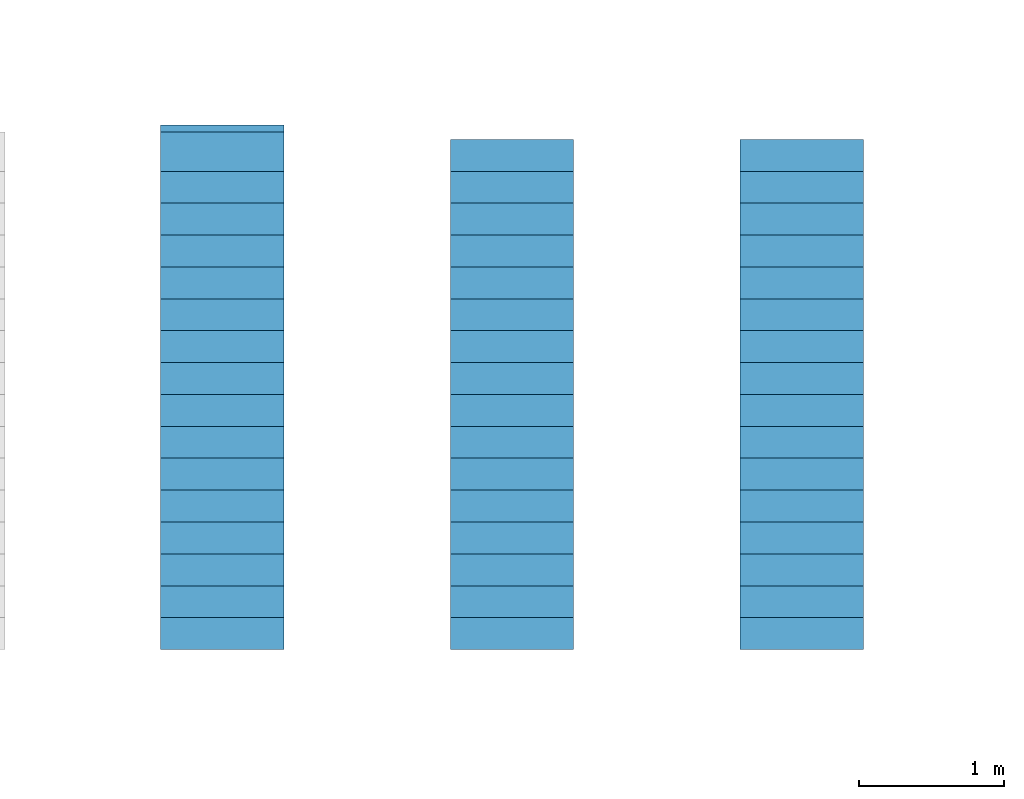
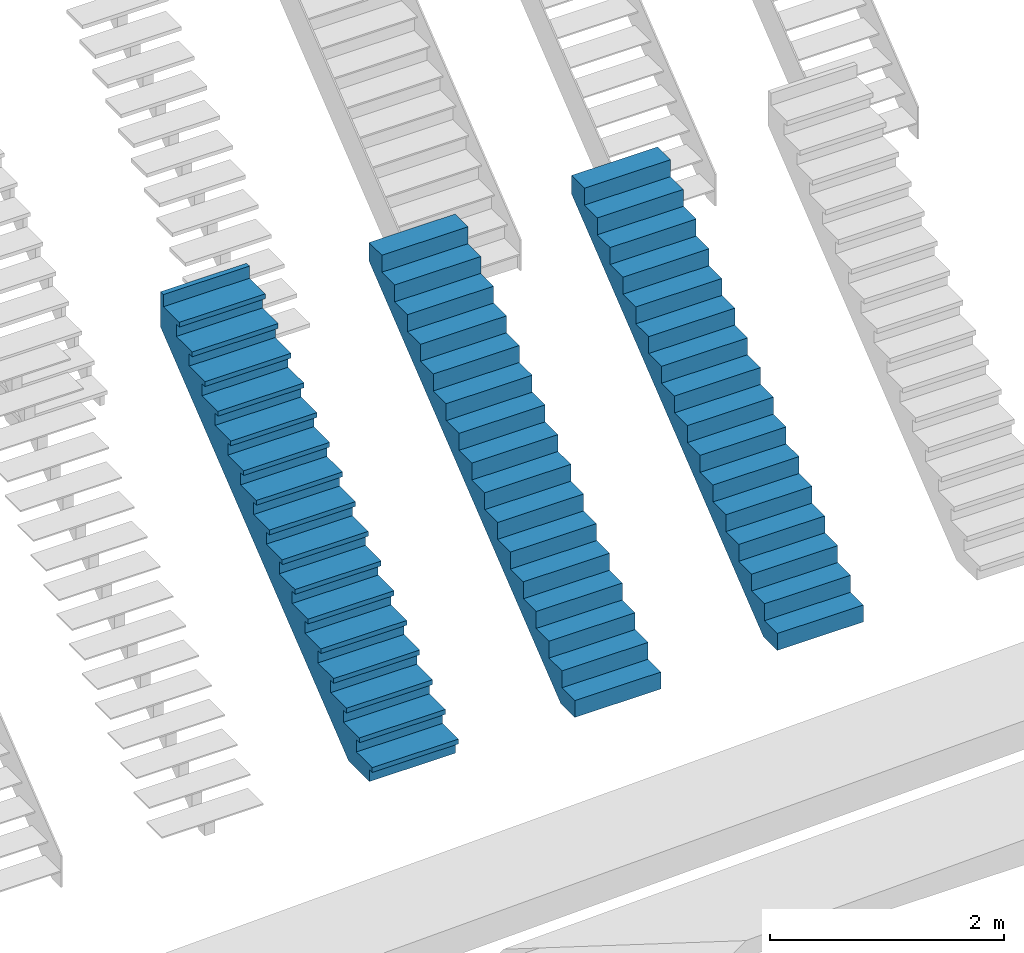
# One storey, part 8 of 14: 3 stair flights, 3 elements without a shape of their own.
"""IFC2X3 building model written with IfcOpenShell, lengths in millimetres."""

from ifc_helpers import new_model, entity, si_unit, converted_unit, derived_unit, direction, frame, origin, place, context, subcontext, project, spatial, faceted_brep, material, element, aggregate, save


model = new_model("IFC2X3")

# Units and contexts
model_context = context("Model", 3, precision=0.01, world=origin(), true_north=direction((6.12303176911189e-17, 1.0)))
context_of_model = context(None, 3, precision=0.01, world=origin(), true_north=direction((6.12303176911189e-17, 1.0)))
body_context = subcontext(model_context, "Body", "Model", "MODEL_VIEW")
ifc_project = project(units=[si_unit("LENGTHUNIT", "METRE", prefix="MILLI"), si_unit("AREAUNIT", "SQUARE_METRE"), si_unit("VOLUMEUNIT", "CUBIC_METRE"), converted_unit("PLANEANGLEUNIT", "DEGREE", entity("IfcRatioMeasure", 0.0174532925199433), si_unit("PLANEANGLEUNIT", "RADIAN"), dimensions=[0, 0, 0, 0, 0, 0, 0]), si_unit("MASSUNIT", "GRAM", prefix="KILO"), si_unit("TIMEUNIT", "SECOND"), si_unit("FREQUENCYUNIT", "HERTZ"), si_unit("THERMODYNAMICTEMPERATUREUNIT", "KELVIN"), derived_unit("THERMALTRANSMITTANCEUNIT", [(si_unit("MASSUNIT", "GRAM", prefix="KILO"), 1), (si_unit("THERMODYNAMICTEMPERATUREUNIT", "KELVIN"), -1), (si_unit("TIMEUNIT", "SECOND"), -3)]), derived_unit("VOLUMETRICFLOWRATEUNIT", [(si_unit("LENGTHUNIT", "METRE"), 3), (si_unit("TIMEUNIT", "SECOND"), -1)]), si_unit("ELECTRICCURRENTUNIT", "AMPERE"), si_unit("ELECTRICVOLTAGEUNIT", "VOLT"), si_unit("POWERUNIT", "WATT")], contexts=[model_context, context_of_model])

# Site, building, storey
site_placement = place(None, origin())
site = spatial("IfcSite", under=ifc_project, at=site_placement, Name="Surface", CompositionType="ELEMENT")
building_placement = place(site_placement, origin())
building = spatial("IfcBuilding", under=site, at=building_placement, CompositionType="ELEMENT")
storey_placement = place(building_placement, origin())
storey = spatial("IfcBuildingStorey", under=building, at=storey_placement, Name="00_begane grond", CompositionType="ELEMENT", Elevation=0.0)

# Stair, stair flight
stair_1_placement = place(storey_placement, origin())
stair_1 = element("IfcStair", 1, at=stair_1_placement, inside=storey, Name="Cast-In-Place Stair:Stair", ShapeType="NOTDEFINED")
ifc_material = material(Name="24_beton_prefab_generiek")
stair_flight_1_placement = place(stair_1_placement, frame((21349.8089026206, -31324.6322235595, 0.0)))
stair_flight_1 = element("IfcStairFlight", 2, at=stair_flight_1_placement, material=ifc_material, Name="Cast-In-Place Stair:Stair:69314 Run 1", ObjectType="Cast-In-Place Stair:24_ST_trap_beton_ihwg_850_220_185", NumberOfRiser=17, NumberOfTreads=16, RiserHeight=0.578971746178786, TreadLength=0.721784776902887, context=body_context, shape_type="Brep", body=[
    faceted_brep([(0.0, 270.0, 176.470588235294), (0.0, 0.0, 176.470588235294), (850.0, 0.0, 176.470588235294), (850.0, 270.0, 176.470588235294), (850.0, 0.0, 126.470588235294), (0.0, 0.0, 126.470588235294), (0.0, 50.0, 126.470588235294), (850.0, 50.0, 126.470588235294), (850.0, 50.0, 0.0), (850.0, 100.0, 0.0), (850.0, 100.0, 126.470588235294), (850.0, 320.0, 126.470588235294), (850.0, 320.0, 302.941176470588), (850.0, 540.0, 302.941176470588), (850.0, 540.0, 479.411764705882), (850.0, 760.0, 479.411764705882), (850.0, 760.0, 655.882352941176), (850.0, 980.0, 655.882352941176), (850.0, 980.0, 832.35294117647), (850.0, 1200.0, 832.35294117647), (850.0, 1200.0, 1008.82352941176), (850.0, 1420.0, 1008.82352941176), (850.0, 1420.0, 1185.29411764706), (850.0, 1640.0, 1185.29411764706), (850.0, 1640.0, 1361.76470588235), (850.0, 1860.0, 1361.76470588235), (850.0, 1860.0, 1538.23529411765), (850.0, 2080.0, 1538.23529411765), (850.0, 2080.0, 1714.70588235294), (850.0, 2300.0, 1714.70588235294), (850.0, 2300.0, 1891.17647058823), (850.0, 2520.0, 1891.17647058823), (850.0, 2520.0, 2067.64705882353), (850.0, 2740.0, 2067.64705882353), (850.0, 2740.0, 2244.11764705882), (850.0, 2960.0, 2244.11764705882), (850.0, 2960.0, 2420.58823529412), (850.0, 3180.0, 2420.58823529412), (850.0, 3180.0, 2597.05882352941), (850.0, 3400.0, 2597.05882352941), (850.0, 3400.0, 2773.5294117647), (850.0, 3620.0, 2773.5294117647), (850.0, 3620.0, 2950.0), (850.0, 3570.0, 2950.0), (850.0, 3570.0, 2823.5294117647), (850.0, 3300.0, 2823.5294117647), (850.0, 3300.0, 2773.5294117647), (850.0, 3350.0, 2773.5294117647), (850.0, 3350.0, 2647.05882352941), (850.0, 3080.0, 2647.05882352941), (850.0, 3080.0, 2597.05882352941), (850.0, 3130.0, 2597.05882352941), (850.0, 3130.0, 2470.58823529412), (850.0, 2860.0, 2470.58823529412), (850.0, 2860.0, 2420.58823529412), (850.0, 2910.0, 2420.58823529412), (850.0, 2910.0, 2294.11764705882), (850.0, 2640.0, 2294.11764705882), (850.0, 2640.0, 2244.11764705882), (850.0, 2690.0, 2244.11764705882), (850.0, 2690.0, 2117.64705882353), (850.0, 2420.0, 2117.64705882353), (850.0, 2420.0, 2067.64705882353), (850.0, 2470.0, 2067.64705882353), (850.0, 2470.0, 1941.17647058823), (850.0, 2200.0, 1941.17647058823), (850.0, 2200.0, 1891.17647058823), (850.0, 2250.0, 1891.17647058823), (850.0, 2250.0, 1764.70588235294), (850.0, 1980.0, 1764.70588235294), (850.0, 1980.0, 1714.70588235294), (850.0, 2030.0, 1714.70588235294), (850.0, 2030.0, 1588.23529411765), (850.0, 1760.0, 1588.23529411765), (850.0, 1760.0, 1538.23529411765), (850.0, 1810.0, 1538.23529411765), (850.0, 1810.0, 1411.76470588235), (850.0, 1540.0, 1411.76470588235), (850.0, 1540.0, 1361.76470588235), (850.0, 1590.0, 1361.76470588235), (850.0, 1590.0, 1235.29411764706), (850.0, 1320.0, 1235.29411764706), (850.0, 1320.0, 1185.29411764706), (850.0, 1370.0, 1185.29411764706), (850.0, 1370.0, 1058.82352941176), (850.0, 1100.0, 1058.82352941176), (850.0, 1100.0, 1008.82352941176), (850.0, 1150.0, 1008.82352941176), (850.0, 1150.0, 882.35294117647), (850.0, 880.0, 882.35294117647), (850.0, 880.0, 832.35294117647), (850.0, 930.0, 832.35294117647), (850.0, 930.0, 705.882352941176), (850.0, 660.0, 705.882352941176), (850.0, 660.0, 655.882352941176), (850.0, 710.0, 655.882352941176), (850.0, 710.0, 529.411764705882), (850.0, 440.0, 529.411764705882), (850.0, 440.0, 479.411764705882), (850.0, 490.0, 479.411764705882), (850.0, 490.0, 352.941176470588), (850.0, 220.0, 352.941176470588), (850.0, 220.0, 302.941176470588), (850.0, 270.0, 302.941176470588), (0.0, 50.0, 0.0), (0.0, 270.0, 302.941176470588), (0.0, 220.0, 302.941176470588), (0.0, 220.0, 352.941176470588), (0.0, 490.0, 352.941176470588), (0.0, 490.0, 479.411764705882), (0.0, 440.0, 479.411764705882), (0.0, 440.0, 529.411764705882), (0.0, 710.0, 529.411764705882), (0.0, 710.0, 655.882352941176), (0.0, 660.0, 655.882352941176), (0.0, 660.0, 705.882352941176), (0.0, 930.0, 705.882352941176), (0.0, 930.0, 832.35294117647), (0.0, 880.0, 832.35294117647), (0.0, 880.0, 882.35294117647), (0.0, 1150.0, 882.35294117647), (0.0, 1150.0, 1008.82352941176), (0.0, 1100.0, 1008.82352941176), (0.0, 1100.0, 1058.82352941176), (0.0, 1370.0, 1058.82352941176), (0.0, 1370.0, 1185.29411764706), (0.0, 1320.0, 1185.29411764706), (0.0, 1320.0, 1235.29411764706), (0.0, 1590.0, 1235.29411764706), (0.0, 1590.0, 1361.76470588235), (0.0, 1540.0, 1361.76470588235), (0.0, 1540.0, 1411.76470588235), (0.0, 1810.0, 1411.76470588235), (0.0, 1810.0, 1538.23529411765), (0.0, 1760.0, 1538.23529411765), (0.0, 1760.0, 1588.23529411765), (0.0, 2030.0, 1588.23529411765), (0.0, 2030.0, 1714.70588235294), (0.0, 1980.0, 1714.70588235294), (0.0, 1980.0, 1764.70588235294), (0.0, 2250.0, 1764.70588235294), (0.0, 2250.0, 1891.17647058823), (0.0, 2200.0, 1891.17647058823), (0.0, 2200.0, 1941.17647058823), (0.0, 2470.0, 1941.17647058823), (0.0, 2470.0, 2067.64705882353), (0.0, 2420.0, 2067.64705882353), (0.0, 2420.0, 2117.64705882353), (0.0, 2690.0, 2117.64705882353), (0.0, 2690.0, 2244.11764705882), (0.0, 2640.0, 2244.11764705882), (0.0, 2640.0, 2294.11764705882), (0.0, 2910.0, 2294.11764705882), (0.0, 2910.0, 2420.58823529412), (0.0, 2860.0, 2420.58823529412), (0.0, 2860.0, 2470.58823529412), (0.0, 3130.0, 2470.58823529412), (0.0, 3130.0, 2597.05882352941), (0.0, 3080.0, 2597.05882352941), (0.0, 3080.0, 2647.05882352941), (0.0, 3350.0, 2647.05882352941), (0.0, 3350.0, 2773.5294117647), (0.0, 3300.0, 2773.5294117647), (0.0, 3300.0, 2823.5294117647), (0.0, 3570.0, 2823.5294117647), (0.0, 3570.0, 2950.0), (0.0, 3620.0, 2950.0), (0.0, 3620.0, 2773.5294117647), (0.0, 3400.0, 2773.5294117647), (0.0, 3400.0, 2597.05882352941), (0.0, 3180.0, 2597.05882352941), (0.0, 3180.0, 2420.58823529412), (0.0, 2960.0, 2420.58823529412), (0.0, 2960.0, 2244.11764705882), (0.0, 2740.0, 2244.11764705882), (0.0, 2740.0, 2067.64705882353), (0.0, 2520.0, 2067.64705882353), (0.0, 2520.0, 1891.17647058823), (0.0, 2300.0, 1891.17647058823), (0.0, 2300.0, 1714.70588235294), (0.0, 2080.0, 1714.70588235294), (0.0, 2080.0, 1538.23529411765), (0.0, 1860.0, 1538.23529411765), (0.0, 1860.0, 1361.76470588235), (0.0, 1640.0, 1361.76470588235), (0.0, 1640.0, 1185.29411764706), (0.0, 1420.0, 1185.29411764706), (0.0, 1420.0, 1008.82352941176), (0.0, 1200.0, 1008.82352941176), (0.0, 1200.0, 832.35294117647), (0.0, 980.0, 832.35294117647), (0.0, 980.0, 655.882352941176), (0.0, 760.0, 655.882352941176), (0.0, 760.0, 479.411764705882), (0.0, 540.0, 479.411764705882), (0.0, 540.0, 302.941176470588), (0.0, 320.0, 302.941176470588), (0.0, 320.0, 126.470588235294), (0.0, 100.0, 126.470588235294), (0.0, 100.0, 0.0)], [[[0, 1, 2, 3]], [[4, 5, 6, 7]], [[2, 1, 5, 4]], [[7, 8, 9, 10, 11, 12, 13, 14, 15, 16, 17, 18, 19, 20, 21, 22, 23, 24, 25, 26, 27, 28, 29, 30, 31, 32, 33, 34, 35, 36, 37, 38, 39, 40, 41, 42, 43, 44, 45, 46, 47, 48, 49, 50, 51, 52, 53, 54, 55, 56, 57, 58, 59, 60, 61, 62, 63, 64, 65, 66, 67, 68, 69, 70, 71, 72, 73, 74, 75, 76, 77, 78, 79, 80, 81, 82, 83, 84, 85, 86, 87, 88, 89, 90, 91, 92, 93, 94, 95, 96, 97, 98, 99, 100, 101, 102, 103, 3, 2, 4]], [[104, 6, 5, 1, 0, 105, 106, 107, 108, 109, 110, 111, 112, 113, 114, 115, 116, 117, 118, 119, 120, 121, 122, 123, 124, 125, 126, 127, 128, 129, 130, 131, 132, 133, 134, 135, 136, 137, 138, 139, 140, 141, 142, 143, 144, 145, 146, 147, 148, 149, 150, 151, 152, 153, 154, 155, 156, 157, 158, 159, 160, 161, 162, 163, 164, 165, 166, 167, 168, 169, 170, 171, 172, 173, 174, 175, 176, 177, 178, 179, 180, 181, 182, 183, 184, 185, 186, 187, 188, 189, 190, 191, 192, 193, 194, 195, 196, 197, 198, 199]], [[8, 7, 6, 104]], [[9, 8, 104, 199]], [[10, 9, 199, 198]], [[108, 107, 101, 100]], [[102, 106, 105, 103]], [[101, 107, 106, 102]], [[105, 0, 3, 103]], [[12, 11, 197, 196]], [[112, 111, 97, 96]], [[98, 110, 109, 99]], [[97, 111, 110, 98]], [[109, 108, 100, 99]], [[14, 13, 195, 194]], [[116, 115, 93, 92]], [[94, 114, 113, 95]], [[93, 115, 114, 94]], [[113, 112, 96, 95]], [[16, 15, 193, 192]], [[120, 119, 89, 88]], [[90, 118, 117, 91]], [[89, 119, 118, 90]], [[117, 116, 92, 91]], [[18, 17, 191, 190]], [[124, 123, 85, 84]], [[86, 122, 121, 87]], [[85, 123, 122, 86]], [[121, 120, 88, 87]], [[20, 19, 189, 188]], [[128, 127, 81, 80]], [[82, 126, 125, 83]], [[81, 127, 126, 82]], [[125, 124, 84, 83]], [[22, 21, 187, 186]], [[132, 131, 77, 76]], [[78, 130, 129, 79]], [[77, 131, 130, 78]], [[129, 128, 80, 79]], [[24, 23, 185, 184]], [[136, 135, 73, 72]], [[74, 134, 133, 75]], [[73, 135, 134, 74]], [[133, 132, 76, 75]], [[26, 25, 183, 182]], [[140, 139, 69, 68]], [[70, 138, 137, 71]], [[69, 139, 138, 70]], [[137, 136, 72, 71]], [[28, 27, 181, 180]], [[144, 143, 65, 64]], [[66, 142, 141, 67]], [[65, 143, 142, 66]], [[141, 140, 68, 67]], [[30, 29, 179, 178]], [[148, 147, 61, 60]], [[62, 146, 145, 63]], [[61, 147, 146, 62]], [[145, 144, 64, 63]], [[32, 31, 177, 176]], [[152, 151, 57, 56]], [[58, 150, 149, 59]], [[57, 151, 150, 58]], [[149, 148, 60, 59]], [[34, 33, 175, 174]], [[156, 155, 53, 52]], [[54, 154, 153, 55]], [[53, 155, 154, 54]], [[153, 152, 56, 55]], [[36, 35, 173, 172]], [[160, 159, 49, 48]], [[50, 158, 157, 51]], [[49, 159, 158, 50]], [[157, 156, 52, 51]], [[38, 37, 171, 170]], [[164, 163, 45, 44]], [[45, 163, 162, 46]], [[161, 160, 48, 47]], [[40, 39, 169, 168]], [[43, 165, 164, 44]], [[41, 40, 168, 167]], [[42, 41, 167, 166]], [[43, 42, 166, 165]], [[46, 162, 161, 47]], [[38, 170, 169, 39]], [[36, 172, 171, 37]], [[34, 174, 173, 35]], [[32, 176, 175, 33]], [[30, 178, 177, 31]], [[28, 180, 179, 29]], [[26, 182, 181, 27]], [[24, 184, 183, 25]], [[22, 186, 185, 23]], [[20, 188, 187, 21]], [[18, 190, 189, 19]], [[16, 192, 191, 17]], [[14, 194, 193, 15]], [[12, 196, 195, 13]], [[10, 198, 197, 11]]]),
    faceted_brep([(0.0, 320.0, 126.470588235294), (0.0, 100.0, 126.470588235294), (850.0, 100.0, 126.470588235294), (850.0, 320.0, 126.470588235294), (0.0, 320.0, 0.0), (0.0, 100.0, 0.0), (850.0, 100.0, 0.0), (850.0, 320.0, 0.0), (0.0, 540.0, 302.941176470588), (0.0, 320.0, 302.941176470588), (850.0, 320.0, 302.941176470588), (850.0, 540.0, 302.941176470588), (0.0, 540.0, 110.646849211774), (0.0, 402.060261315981, 0.0), (850.0, 402.060261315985, 0.0), (850.0, 540.0, 110.64684921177), (0.0, 760.0, 479.411764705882), (0.0, 540.0, 479.411764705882), (850.0, 540.0, 479.411764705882), (850.0, 760.0, 479.411764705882), (0.0, 760.0, 287.117437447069), (850.0, 760.0, 287.117437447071), (0.0, 980.0, 655.882352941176), (0.0, 760.0, 655.882352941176), (850.0, 760.0, 655.882352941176), (850.0, 980.0, 655.882352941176), (0.0, 980.0, 463.58802568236), (850.0, 980.0, 463.588025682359), (0.0, 1200.0, 832.35294117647), (0.0, 980.0, 832.35294117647), (850.0, 980.0, 832.35294117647), (850.0, 1200.0, 832.35294117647), (0.0, 1200.0, 640.058613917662), (850.0, 1200.0, 640.058613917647), (0.0, 1420.0, 1008.82352941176), (0.0, 1200.0, 1008.82352941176), (850.0, 1200.0, 1008.82352941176), (850.0, 1420.0, 1008.82352941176), (0.0, 1420.0, 816.529202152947), (850.0, 1420.0, 816.529202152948), (0.0, 1640.0, 1185.29411764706), (0.0, 1420.0, 1185.29411764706), (850.0, 1420.0, 1185.29411764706), (850.0, 1640.0, 1185.29411764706), (0.0, 1640.0, 992.999790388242), (850.0, 1640.0, 992.99979038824), (0.0, 1860.0, 1361.76470588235), (0.0, 1640.0, 1361.76470588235), (850.0, 1640.0, 1361.76470588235), (850.0, 1860.0, 1361.76470588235), (0.0, 1860.0, 1169.47037862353), (850.0, 1860.0, 1169.47037862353), (0.0, 2080.0, 1538.23529411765), (0.0, 1860.0, 1538.23529411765), (850.0, 1860.0, 1538.23529411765), (850.0, 2080.0, 1538.23529411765), (0.0, 2080.0, 1345.94096685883), (850.0, 2080.0, 1345.94096685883), (0.0, 2300.0, 1714.70588235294), (0.0, 2080.0, 1714.70588235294), (850.0, 2080.0, 1714.70588235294), (850.0, 2300.0, 1714.70588235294), (0.0, 2300.0, 1522.41155509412), (850.0, 2300.0, 1522.41155509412), (0.0, 2520.0, 1891.17647058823), (0.0, 2300.0, 1891.17647058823), (850.0, 2300.0, 1891.17647058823), (850.0, 2520.0, 1891.17647058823), (0.0, 2520.0, 1698.88214332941), (850.0, 2520.0, 1698.88214332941), (0.0, 2740.0, 2067.64705882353), (0.0, 2520.0, 2067.64705882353), (850.0, 2520.0, 2067.64705882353), (850.0, 2740.0, 2067.64705882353), (0.0, 2740.0, 1875.35273156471), (850.0, 2740.0, 1875.35273156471), (0.0, 2960.0, 2244.11764705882), (0.0, 2740.0, 2244.11764705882), (850.0, 2740.0, 2244.11764705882), (850.0, 2960.0, 2244.11764705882), (0.0, 2960.0, 2051.8233198), (850.0, 2960.0, 2051.8233198), (0.0, 3180.0, 2420.58823529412), (0.0, 2960.0, 2420.58823529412), (850.0, 2960.0, 2420.58823529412), (850.0, 3180.0, 2420.58823529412), (0.0, 3180.0, 2228.2939080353), (850.0, 3180.0, 2228.2939080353), (0.0, 3400.0, 2597.05882352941), (0.0, 3180.0, 2597.05882352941), (850.0, 3180.0, 2597.05882352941), (850.0, 3400.0, 2597.05882352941), (0.0, 3400.0, 2404.76449627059), (850.0, 3400.0, 2404.76449627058), (0.0, 3620.0, 2773.5294117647), (0.0, 3400.0, 2773.5294117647), (850.0, 3400.0, 2773.5294117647), (850.0, 3620.0, 2773.5294117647), (0.0, 3620.0, 2581.23508450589), (850.0, 3620.0, 2581.23508450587)], [[[0, 1, 2, 3]], [[1, 0, 4, 5]], [[2, 1, 5, 6]], [[3, 2, 6, 7]], [[8, 9, 10, 11]], [[4, 0, 9, 8, 12, 13]], [[0, 3, 10, 9]], [[3, 7, 14, 15, 11, 10]], [[16, 17, 18, 19]], [[17, 16, 20, 12, 8]], [[8, 11, 18, 17]], [[19, 18, 11, 15, 21]], [[22, 23, 24, 25]], [[23, 22, 26, 20, 16]], [[16, 19, 24, 23]], [[25, 24, 19, 21, 27]], [[28, 29, 30, 31]], [[29, 28, 32, 26, 22]], [[22, 25, 30, 29]], [[31, 30, 25, 27, 33]], [[34, 35, 36, 37]], [[35, 34, 38, 32, 28]], [[28, 31, 36, 35]], [[37, 36, 31, 33, 39]], [[40, 41, 42, 43]], [[41, 40, 44, 38, 34]], [[34, 37, 42, 41]], [[43, 42, 37, 39, 45]], [[46, 47, 48, 49]], [[47, 46, 50, 44, 40]], [[40, 43, 48, 47]], [[49, 48, 43, 45, 51]], [[52, 53, 54, 55]], [[53, 52, 56, 50, 46]], [[46, 49, 54, 53]], [[55, 54, 49, 51, 57]], [[58, 59, 60, 61]], [[59, 58, 62, 56, 52]], [[52, 55, 60, 59]], [[61, 60, 55, 57, 63]], [[64, 65, 66, 67]], [[65, 64, 68, 62, 58]], [[58, 61, 66, 65]], [[67, 66, 61, 63, 69]], [[70, 71, 72, 73]], [[71, 70, 74, 68, 64]], [[64, 67, 72, 71]], [[73, 72, 67, 69, 75]], [[76, 77, 78, 79]], [[77, 76, 80, 74, 70]], [[70, 73, 78, 77]], [[79, 78, 73, 75, 81]], [[82, 83, 84, 85]], [[83, 82, 86, 80, 76]], [[76, 79, 84, 83]], [[85, 84, 79, 81, 87]], [[88, 89, 90, 91]], [[89, 88, 92, 86, 82]], [[82, 85, 90, 89]], [[91, 90, 85, 87, 93]], [[94, 95, 96, 97]], [[95, 94, 98, 92, 88]], [[88, 91, 96, 95]], [[97, 96, 91, 93, 99]], [[94, 97, 99, 98]], [[5, 4, 13, 14, 7, 6]], [[14, 13, 12, 20, 26, 32, 38, 44, 50, 56, 62, 68, 74, 80, 86, 92, 98, 99, 93, 87, 81, 75, 69, 63, 57, 51, 45, 39, 33, 27, 21, 15]]]),
])
aggregate(stair_1, [stair_flight_1])

stair_2_placement = place(storey_placement, origin())
stair_2 = element("IfcStair", 3, at=stair_2_placement, inside=storey, Name="Cast-In-Place Stair:Stair", ShapeType="NOTDEFINED")
stair_flight_2_placement = place(stair_2_placement, frame((23349.8089026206, -31324.6322235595, 0.0)))
stair_flight_2 = element("IfcStairFlight", 4, at=stair_flight_2_placement, material=ifc_material, Name="Cast-In-Place Stair:Stair:69318 Run 1", ObjectType="Cast-In-Place Stair:24_ST_trap_beton_ihwg_monolitisch_850_220_185:2179", NumberOfRiser=17, NumberOfTreads=16, RiserHeight=0.578971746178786, TreadLength=0.721784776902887, context=body_context, shape_type="Brep", body=[
    faceted_brep([(0.0, 220.0, 176.470588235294), (0.0, 0.0, 176.470588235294), (850.0, 0.0, 176.470588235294), (850.0, 220.0, 176.470588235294), (0.0, 220.0, 0.0), (0.0, 0.0, 0.0), (850.0, 0.0, 0.0), (850.0, 220.0, 0.0), (0.0, 440.0, 352.941176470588), (0.0, 220.0, 352.941176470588), (850.0, 220.0, 352.941176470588), (850.0, 440.0, 352.941176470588), (0.0, 440.0, 160.646849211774), (0.0, 239.72692798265, 0.0), (850.0, 239.726927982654, 0.0), (850.0, 440.0, 160.646849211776), (0.0, 660.0, 529.411764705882), (0.0, 440.0, 529.411764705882), (850.0, 440.0, 529.411764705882), (850.0, 660.0, 529.411764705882), (0.0, 660.0, 337.117437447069), (850.0, 660.0, 337.117437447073), (0.0, 880.0, 705.882352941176), (0.0, 660.0, 705.882352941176), (850.0, 660.0, 705.882352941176), (850.0, 880.0, 705.882352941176), (0.0, 880.0, 513.588025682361), (850.0, 880.0, 513.588025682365), (0.0, 1100.0, 882.35294117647), (0.0, 880.0, 882.35294117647), (850.0, 880.0, 882.35294117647), (850.0, 1100.0, 882.35294117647), (0.0, 1100.0, 690.058613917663), (850.0, 1100.0, 690.058613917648), (0.0, 1320.0, 1058.82352941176), (0.0, 1100.0, 1058.82352941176), (850.0, 1100.0, 1058.82352941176), (850.0, 1320.0, 1058.82352941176), (0.0, 1320.0, 866.529202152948), (850.0, 1320.0, 866.529202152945), (0.0, 1540.0, 1235.29411764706), (0.0, 1320.0, 1235.29411764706), (850.0, 1320.0, 1235.29411764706), (850.0, 1540.0, 1235.29411764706), (0.0, 1540.0, 1042.99979038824), (850.0, 1540.0, 1042.99979038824), (0.0, 1760.0, 1411.76470588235), (0.0, 1540.0, 1411.76470588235), (850.0, 1540.0, 1411.76470588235), (850.0, 1760.0, 1411.76470588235), (0.0, 1760.0, 1219.47037862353), (850.0, 1760.0, 1219.47037862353), (0.0, 1980.0, 1588.23529411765), (0.0, 1760.0, 1588.23529411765), (850.0, 1760.0, 1588.23529411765), (850.0, 1980.0, 1588.23529411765), (0.0, 1980.0, 1395.94096685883), (850.0, 1980.0, 1395.94096685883), (0.0, 2200.0, 1764.70588235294), (0.0, 1980.0, 1764.70588235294), (850.0, 1980.0, 1764.70588235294), (850.0, 2200.0, 1764.70588235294), (0.0, 2200.0, 1572.41155509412), (850.0, 2200.0, 1572.41155509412), (0.0, 2420.0, 1941.17647058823), (0.0, 2200.0, 1941.17647058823), (850.0, 2200.0, 1941.17647058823), (850.0, 2420.0, 1941.17647058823), (0.0, 2420.0, 1748.88214332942), (850.0, 2420.0, 1748.88214332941), (0.0, 2640.0, 2117.64705882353), (0.0, 2420.0, 2117.64705882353), (850.0, 2420.0, 2117.64705882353), (850.0, 2640.0, 2117.64705882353), (0.0, 2640.0, 1925.35273156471), (850.0, 2640.0, 1925.35273156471), (0.0, 2860.0, 2294.11764705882), (0.0, 2640.0, 2294.11764705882), (850.0, 2640.0, 2294.11764705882), (850.0, 2860.0, 2294.11764705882), (0.0, 2860.0, 2101.8233198), (850.0, 2860.0, 2101.8233198), (0.0, 3080.0, 2470.58823529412), (0.0, 2860.0, 2470.58823529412), (850.0, 2860.0, 2470.58823529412), (850.0, 3080.0, 2470.58823529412), (0.0, 3080.0, 2278.2939080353), (850.0, 3080.0, 2278.2939080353), (0.0, 3300.0, 2647.05882352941), (0.0, 3080.0, 2647.05882352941), (850.0, 3080.0, 2647.05882352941), (850.0, 3300.0, 2647.05882352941), (0.0, 3300.0, 2454.76449627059), (850.0, 3300.0, 2454.76449627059), (0.0, 3520.0, 2823.5294117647), (0.0, 3300.0, 2823.5294117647), (850.0, 3300.0, 2823.5294117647), (850.0, 3520.0, 2823.5294117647), (0.0, 3520.0, 2631.23508450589), (850.0, 3520.0, 2631.23508450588)], [[[0, 1, 2, 3]], [[1, 0, 4, 5]], [[2, 1, 5, 6]], [[3, 2, 6, 7]], [[8, 9, 10, 11]], [[4, 0, 9, 8, 12, 13]], [[0, 3, 10, 9]], [[3, 7, 14, 15, 11, 10]], [[16, 17, 18, 19]], [[17, 16, 20, 12, 8]], [[8, 11, 18, 17]], [[19, 18, 11, 15, 21]], [[22, 23, 24, 25]], [[23, 22, 26, 20, 16]], [[16, 19, 24, 23]], [[25, 24, 19, 21, 27]], [[28, 29, 30, 31]], [[29, 28, 32, 26, 22]], [[22, 25, 30, 29]], [[31, 30, 25, 27, 33]], [[34, 35, 36, 37]], [[35, 34, 38, 32, 28]], [[28, 31, 36, 35]], [[37, 36, 31, 33, 39]], [[40, 41, 42, 43]], [[41, 40, 44, 38, 34]], [[34, 37, 42, 41]], [[43, 42, 37, 39, 45]], [[46, 47, 48, 49]], [[47, 46, 50, 44, 40]], [[40, 43, 48, 47]], [[49, 48, 43, 45, 51]], [[52, 53, 54, 55]], [[53, 52, 56, 50, 46]], [[46, 49, 54, 53]], [[55, 54, 49, 51, 57]], [[58, 59, 60, 61]], [[59, 58, 62, 56, 52]], [[52, 55, 60, 59]], [[61, 60, 55, 57, 63]], [[64, 65, 66, 67]], [[65, 64, 68, 62, 58]], [[58, 61, 66, 65]], [[67, 66, 61, 63, 69]], [[70, 71, 72, 73]], [[71, 70, 74, 68, 64]], [[64, 67, 72, 71]], [[73, 72, 67, 69, 75]], [[76, 77, 78, 79]], [[77, 76, 80, 74, 70]], [[70, 73, 78, 77]], [[79, 78, 73, 75, 81]], [[82, 83, 84, 85]], [[83, 82, 86, 80, 76]], [[76, 79, 84, 83]], [[85, 84, 79, 81, 87]], [[88, 89, 90, 91]], [[89, 88, 92, 86, 82]], [[82, 85, 90, 89]], [[91, 90, 85, 87, 93]], [[94, 95, 96, 97]], [[95, 94, 98, 92, 88]], [[88, 91, 96, 95]], [[97, 96, 91, 93, 99]], [[94, 97, 99, 98]], [[5, 4, 13, 14, 7, 6]], [[14, 13, 12, 20, 26, 32, 38, 44, 50, 56, 62, 68, 74, 80, 86, 92, 98, 99, 93, 87, 81, 75, 69, 63, 57, 51, 45, 39, 33, 27, 21, 15]]]),
])
aggregate(stair_2, [stair_flight_2])

stair_3_placement = place(storey_placement, origin())
stair_3 = element("IfcStair", 5, at=stair_3_placement, inside=storey, Name="Precast Stair:Stair", ShapeType="NOTDEFINED")
stair_flight_3_placement = place(stair_3_placement, frame((25349.8089026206, -31324.6322235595, 0.0)))
stair_flight_3 = element("IfcStairFlight", 6, at=stair_flight_3_placement, material=ifc_material, Name="Precast Stair:Stair:69323 Run 1", ObjectType="Precast Stair:24_ST_trap_beton_prefab_850_220_185:2180", NumberOfRiser=17, NumberOfTreads=16, RiserHeight=0.578971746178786, TreadLength=0.721784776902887, context=body_context, shape_type="Brep", body=[
    faceted_brep([(0.0, 220.0, 176.470588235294), (0.0, 0.0, 176.470588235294), (850.0, 0.0, 176.470588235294), (850.0, 220.0, 176.470588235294), (0.0, 220.0, 0.0), (0.0, 0.0, 0.0), (850.0, 0.0, 0.0), (850.0, 220.0, 0.0), (0.0, 440.0, 352.941176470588), (0.0, 220.0, 352.941176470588), (850.0, 220.0, 352.941176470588), (850.0, 440.0, 352.941176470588), (0.0, 440.0, 160.646849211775), (0.0, 239.726927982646, 0.0), (850.0, 239.72692798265, 0.0), (850.0, 440.0, 160.646849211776), (0.0, 660.0, 529.411764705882), (0.0, 440.0, 529.411764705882), (850.0, 440.0, 529.411764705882), (850.0, 660.0, 529.411764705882), (0.0, 660.0, 337.117437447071), (850.0, 660.0, 337.117437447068), (0.0, 880.0, 705.882352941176), (0.0, 660.0, 705.882352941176), (850.0, 660.0, 705.882352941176), (850.0, 880.0, 705.882352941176), (0.0, 880.0, 513.588025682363), (850.0, 880.0, 513.58802568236), (0.0, 1100.0, 882.35294117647), (0.0, 880.0, 882.35294117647), (850.0, 880.0, 882.35294117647), (850.0, 1100.0, 882.35294117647), (0.0, 1100.0, 690.058613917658), (850.0, 1100.0, 690.058613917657), (0.0, 1320.0, 1058.82352941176), (0.0, 1100.0, 1058.82352941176), (850.0, 1100.0, 1058.82352941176), (850.0, 1320.0, 1058.82352941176), (0.0, 1320.0, 866.52920215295), (850.0, 1320.0, 866.529202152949), (0.0, 1540.0, 1235.29411764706), (0.0, 1320.0, 1235.29411764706), (850.0, 1320.0, 1235.29411764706), (850.0, 1540.0, 1235.29411764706), (0.0, 1540.0, 1042.99979038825), (850.0, 1540.0, 1042.99979038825), (0.0, 1760.0, 1411.76470588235), (0.0, 1540.0, 1411.76470588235), (850.0, 1540.0, 1411.76470588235), (850.0, 1760.0, 1411.76470588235), (0.0, 1760.0, 1219.47037862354), (850.0, 1760.0, 1219.47037862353), (0.0, 1980.0, 1588.23529411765), (0.0, 1760.0, 1588.23529411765), (850.0, 1760.0, 1588.23529411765), (850.0, 1980.0, 1588.23529411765), (0.0, 1980.0, 1395.94096685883), (850.0, 1980.0, 1395.94096685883), (0.0, 2200.0, 1764.70588235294), (0.0, 1980.0, 1764.70588235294), (850.0, 1980.0, 1764.70588235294), (850.0, 2200.0, 1764.70588235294), (0.0, 2200.0, 1572.41155509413), (850.0, 2200.0, 1572.41155509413), (0.0, 2420.0, 1941.17647058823), (0.0, 2200.0, 1941.17647058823), (850.0, 2200.0, 1941.17647058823), (850.0, 2420.0, 1941.17647058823), (0.0, 2420.0, 1748.88214332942), (850.0, 2420.0, 1748.88214332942), (0.0, 2640.0, 2117.64705882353), (0.0, 2420.0, 2117.64705882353), (850.0, 2420.0, 2117.64705882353), (850.0, 2640.0, 2117.64705882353), (0.0, 2640.0, 1925.35273156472), (850.0, 2640.0, 1925.35273156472), (0.0, 2860.0, 2294.11764705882), (0.0, 2640.0, 2294.11764705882), (850.0, 2640.0, 2294.11764705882), (850.0, 2860.0, 2294.11764705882), (0.0, 2860.0, 2101.82331980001), (850.0, 2860.0, 2101.82331980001), (0.0, 3080.0, 2470.58823529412), (0.0, 2860.0, 2470.58823529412), (850.0, 2860.0, 2470.58823529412), (850.0, 3080.0, 2470.58823529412), (0.0, 3080.0, 2278.2939080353), (850.0, 3080.0, 2278.2939080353), (0.0, 3300.0, 2647.05882352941), (0.0, 3080.0, 2647.05882352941), (850.0, 3080.0, 2647.05882352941), (850.0, 3300.0, 2647.05882352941), (0.0, 3300.0, 2454.7644962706), (850.0, 3300.0, 2454.7644962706), (0.0, 3520.0, 2823.5294117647), (0.0, 3300.0, 2823.5294117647), (850.0, 3300.0, 2823.5294117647), (850.0, 3520.0, 2823.5294117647), (0.0, 3520.0, 2631.23508450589), (850.0, 3520.0, 2631.23508450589)], [[[0, 1, 2, 3]], [[1, 0, 4, 5]], [[2, 1, 5, 6]], [[3, 2, 6, 7]], [[8, 9, 10, 11]], [[4, 0, 9, 8, 12, 13]], [[0, 3, 10, 9]], [[3, 7, 14, 15, 11, 10]], [[16, 17, 18, 19]], [[17, 16, 20, 12, 8]], [[8, 11, 18, 17]], [[19, 18, 11, 15, 21]], [[22, 23, 24, 25]], [[23, 22, 26, 20, 16]], [[16, 19, 24, 23]], [[25, 24, 19, 21, 27]], [[28, 29, 30, 31]], [[29, 28, 32, 26, 22]], [[22, 25, 30, 29]], [[31, 30, 25, 27, 33]], [[34, 35, 36, 37]], [[35, 34, 38, 32, 28]], [[28, 31, 36, 35]], [[37, 36, 31, 33, 39]], [[40, 41, 42, 43]], [[41, 40, 44, 38, 34]], [[34, 37, 42, 41]], [[43, 42, 37, 39, 45]], [[46, 47, 48, 49]], [[47, 46, 50, 44, 40]], [[40, 43, 48, 47]], [[49, 48, 43, 45, 51]], [[52, 53, 54, 55]], [[53, 52, 56, 50, 46]], [[46, 49, 54, 53]], [[55, 54, 49, 51, 57]], [[58, 59, 60, 61]], [[59, 58, 62, 56, 52]], [[52, 55, 60, 59]], [[61, 60, 55, 57, 63]], [[64, 65, 66, 67]], [[65, 64, 68, 62, 58]], [[58, 61, 66, 65]], [[67, 66, 61, 63, 69]], [[70, 71, 72, 73]], [[71, 70, 74, 68, 64]], [[64, 67, 72, 71]], [[73, 72, 67, 69, 75]], [[76, 77, 78, 79]], [[77, 76, 80, 74, 70]], [[70, 73, 78, 77]], [[79, 78, 73, 75, 81]], [[82, 83, 84, 85]], [[83, 82, 86, 80, 76]], [[76, 79, 84, 83]], [[85, 84, 79, 81, 87]], [[88, 89, 90, 91]], [[89, 88, 92, 86, 82]], [[82, 85, 90, 89]], [[91, 90, 85, 87, 93]], [[94, 95, 96, 97]], [[95, 94, 98, 92, 88]], [[88, 91, 96, 95]], [[97, 96, 91, 93, 99]], [[94, 97, 99, 98]], [[5, 4, 13, 14, 7, 6]], [[14, 13, 12, 20, 26, 32, 38, 44, 50, 56, 62, 68, 74, 80, 86, 92, 98, 99, 93, 87, 81, 75, 69, 63, 57, 51, 45, 39, 33, 27, 21, 15]]]),
])
aggregate(stair_3, [stair_flight_3])

save(model, "model.ifc")
